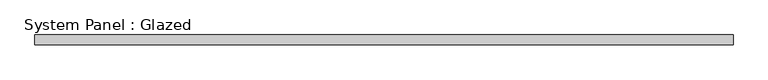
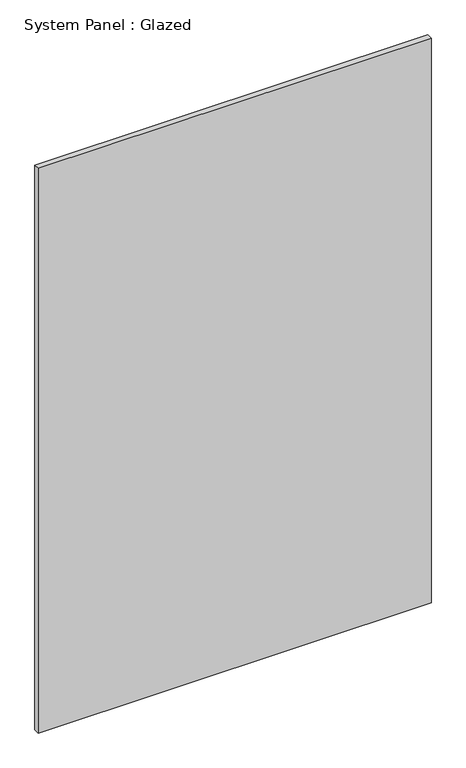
"""IFC4 building model written with IfcOpenShell, lengths in millimetres: plate geometry, System Panel : Glazed."""

from ifc_helpers import new_model, si_unit, origin, origin_with_axes, place, context, project, spatial, polyline, outline, extrude, source, transform, mapped, element, save


def system_panel_glazed_71145930(model_context):
    return source(origin(), model_context, "Body", "SweptSolid", [
        extrude(outline(polyline([(891.9986512, 19.05), (-891.9986512, 19.05), (-891.9986512, 44.45), (891.9986512, 44.45), (891.9986512, 19.05)])), origin_with_axes(), (0.0, 0.0, 1.0), 2711.4294337),
    ])


if __name__ == "__main__":
    model = new_model("IFC4")
    model_context = context("Model", 3, world=origin())
    ifc_project = project(units=[si_unit("LENGTHUNIT", "METRE", prefix="MILLI")], contexts=[model_context])
    site = spatial("IfcSite", under=ifc_project)
    building = spatial("IfcBuilding", under=site)
    placement = place(None, origin())
    system_panel_glazed_shape = system_panel_glazed_71145930(model_context)
    element("IfcPlate", 1, ObjectType="System Panel : Glazed", at=placement, inside=building, context=model_context, shape_type="MappedRepresentation", body=[
        mapped(system_panel_glazed_shape, transform((0.0, 0.0, 0.0), x_axis=(1.0, 0.0, 0.0), y_axis=(0.0, 1.0, 0.0), z_axis=(0.0, 0.0, 1.0))),
    ])
    save(model, "model.ifc")
